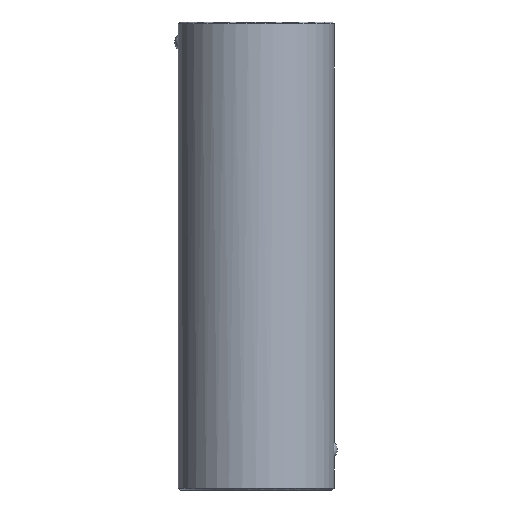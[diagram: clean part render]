
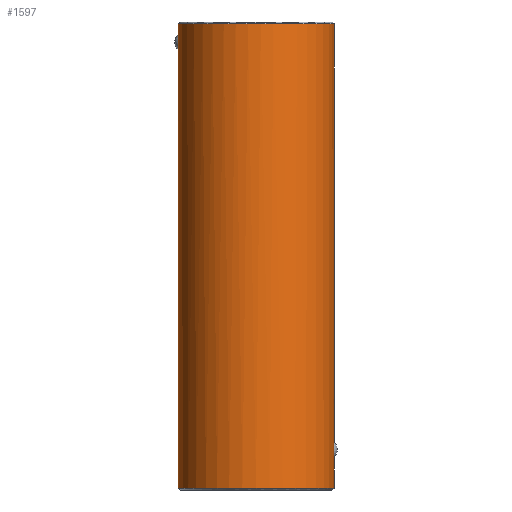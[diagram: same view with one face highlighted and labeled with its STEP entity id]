
A CAD part, front view. The second image highlights one B-rep face of the part: STEP entity #1597.
In plain terms, the highlighted cylindrical face has radius 12 mm (diameter 24 mm), a partial arc.
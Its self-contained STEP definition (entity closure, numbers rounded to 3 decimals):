
#1369=CARTESIAN_POINT('Vertex',(-12.,0.,0.3)) ;
#1376=CARTESIAN_POINT('Vertex',(12.,0.,0.3)) ;
#1379=CARTESIAN_POINT('Axis2P3D Location',(0.,0.,0.3)) ;
#1497=CARTESIAN_POINT('Axis2P3D Location',(0.,0.,72.)) ;
#1502=CARTESIAN_POINT('Line Origine',(12.,0.,72.)) ;
#1506=CARTESIAN_POINT('Vertex',(12.,0.,5.082)) ;
#1510=CARTESIAN_POINT('Control Point',(11.945,-1.143,6.424)) ;
#1511=CARTESIAN_POINT('Control Point',(11.937,-1.227,6.029)) ;
#1512=CARTESIAN_POINT('Control Point',(11.946,-1.127,5.596)) ;
#1513=CARTESIAN_POINT('Control Point',(11.983,-0.81,5.247)) ;
#1514=CARTESIAN_POINT('Control Point',(12.,-0.404,5.082)) ;
#1515=CARTESIAN_POINT('Control Point',(12.,0.,5.082)) ;
#1516=CARTESIAN_POINT('Vertex',(11.945,-1.143,6.424)) ;
#1520=CARTESIAN_POINT('Control Point',(12.,0.,7.318)) ;
#1521=CARTESIAN_POINT('Control Point',(12.,-0.393,7.318)) ;
#1522=CARTESIAN_POINT('Control Point',(11.981,-0.79,7.149)) ;
#1523=CARTESIAN_POINT('Control Point',(11.953,-1.061,6.808)) ;
#1524=CARTESIAN_POINT('Control Point',(11.945,-1.143,6.424)) ;
#1525=CARTESIAN_POINT('Vertex',(12.,0.,7.318)) ;
#1528=CARTESIAN_POINT('Line Origine',(12.,0.,72.)) ;
#1532=CARTESIAN_POINT('Vertex',(12.,0.,71.7)) ;
#1536=CARTESIAN_POINT('Control Point',(-12.,0.,71.7)) ;
#1537=CARTESIAN_POINT('Control Point',(-12.,-1.885,71.7)) ;
#1538=CARTESIAN_POINT('Control Point',(-11.63,-3.77,71.7)) ;
#1539=CARTESIAN_POINT('Control Point',(-10.889,-5.558,71.7)) ;
#1540=CARTESIAN_POINT('Control Point',(-8.747,-8.747,71.7)) ;
#1541=CARTESIAN_POINT('Control Point',(-5.558,-10.889,71.7)) ;
#1542=CARTESIAN_POINT('Control Point',(-3.77,-11.63,71.7)) ;
#1543=CARTESIAN_POINT('Control Point',(0.,-12.37,71.7)) ;
#1544=CARTESIAN_POINT('Control Point',(3.77,-11.63,71.7)) ;
#1545=CARTESIAN_POINT('Control Point',(5.558,-10.889,71.7)) ;
#1546=CARTESIAN_POINT('Control Point',(8.747,-8.747,71.7)) ;
#1547=CARTESIAN_POINT('Control Point',(10.889,-5.558,71.7)) ;
#1548=CARTESIAN_POINT('Control Point',(11.63,-3.77,71.7)) ;
#1549=CARTESIAN_POINT('Control Point',(12.,-1.885,71.7)) ;
#1550=CARTESIAN_POINT('Control Point',(12.,0.,71.7)) ;
#1551=CARTESIAN_POINT('Vertex',(-12.,0.,71.7)) ;
#1554=CARTESIAN_POINT('Line Origine',(-12.,0.,72.)) ;
#1558=CARTESIAN_POINT('Vertex',(-12.,0.,70.018)) ;
#1562=CARTESIAN_POINT('Control Point',(-11.945,-1.143,68.676)) ;
#1563=CARTESIAN_POINT('Control Point',(-11.937,-1.227,69.071)) ;
#1564=CARTESIAN_POINT('Control Point',(-11.946,-1.127,69.504)) ;
#1565=CARTESIAN_POINT('Control Point',(-11.983,-0.81,69.853)) ;
#1566=CARTESIAN_POINT('Control Point',(-12.,-0.404,70.018)) ;
#1567=CARTESIAN_POINT('Control Point',(-12.,0.,70.018)) ;
#1568=CARTESIAN_POINT('Vertex',(-11.945,-1.143,68.676)) ;
#1572=CARTESIAN_POINT('Control Point',(-12.,0.,67.782)) ;
#1573=CARTESIAN_POINT('Control Point',(-12.,-0.393,67.782)) ;
#1574=CARTESIAN_POINT('Control Point',(-11.981,-0.79,67.951)) ;
#1575=CARTESIAN_POINT('Control Point',(-11.953,-1.061,68.292)) ;
#1576=CARTESIAN_POINT('Control Point',(-11.945,-1.143,68.676)) ;
#1577=CARTESIAN_POINT('Vertex',(-12.,0.,67.782)) ;
#1580=CARTESIAN_POINT('Line Origine',(-12.,0.,72.)) ;
#1380=DIRECTION('Axis2P3D Direction',(0.,-0.,1.)) ;
#1498=DIRECTION('Axis2P3D Direction',(0.,0.,-1.)) ;
#1499=DIRECTION('Axis2P3D XDirection',(1.,0.,0.)) ;
#1503=DIRECTION('Vector Direction',(0.,0.,-1.)) ;
#1529=DIRECTION('Vector Direction',(0.,0.,-1.)) ;
#1555=DIRECTION('Vector Direction',(0.,0.,-1.)) ;
#1581=DIRECTION('Vector Direction',(0.,0.,-1.)) ;
#1381=AXIS2_PLACEMENT_3D('Circle Axis2P3D',#1379,#1380,$) ;
#1500=AXIS2_PLACEMENT_3D('Cylinder Axis2P3D',#1497,#1498,#1499) ;
#1586=ORIENTED_EDGE('',*,*,#1508,.T.) ;
#1587=ORIENTED_EDGE('',*,*,#1518,.F.) ;
#1588=ORIENTED_EDGE('',*,*,#1527,.F.) ;
#1589=ORIENTED_EDGE('',*,*,#1534,.T.) ;
#1590=ORIENTED_EDGE('',*,*,#1553,.F.) ;
#1591=ORIENTED_EDGE('',*,*,#1560,.T.) ;
#1592=ORIENTED_EDGE('',*,*,#1570,.F.) ;
#1593=ORIENTED_EDGE('',*,*,#1579,.F.) ;
#1594=ORIENTED_EDGE('',*,*,#1584,.T.) ;
#1595=ORIENTED_EDGE('',*,*,#1383,.T.) ;
#1504=VECTOR('Line Direction',#1503,1.) ;
#1530=VECTOR('Line Direction',#1529,1.) ;
#1556=VECTOR('Line Direction',#1555,1.) ;
#1582=VECTOR('Line Direction',#1581,1.) ;
#1597=ADVANCED_FACE('730-19x72',(#1596),#1501,.T.) ;
#1509=B_SPLINE_CURVE_WITH_KNOTS('',5,(#1510,#1511,#1512,#1513,#1514,#1515),.UNSPECIFIED.,.F.,.U.,(6,6),(0.,2.867),.UNSPECIFIED.) ;
#1519=B_SPLINE_CURVE_WITH_KNOTS('',4,(#1520,#1521,#1522,#1523,#1524),.UNSPECIFIED.,.F.,.U.,(5,5),(0.,2.23),.UNSPECIFIED.) ;
#1535=B_SPLINE_CURVE_WITH_KNOTS('',5,(#1536,#1537,#1538,#1539,#1540,#1541,#1542,#1543,#1544,#1545,#1546,#1547,#1548,#1549,#1550),.UNSPECIFIED.,.F.,.U.,(6,3,3,3,6),(-18.85,-9.425,0.,9.425,18.85),.UNSPECIFIED.) ;
#1561=B_SPLINE_CURVE_WITH_KNOTS('',5,(#1562,#1563,#1564,#1565,#1566,#1567),.UNSPECIFIED.,.F.,.U.,(6,6),(0.,2.867),.UNSPECIFIED.) ;
#1571=B_SPLINE_CURVE_WITH_KNOTS('',4,(#1572,#1573,#1574,#1575,#1576),.UNSPECIFIED.,.F.,.U.,(5,5),(0.,2.23),.UNSPECIFIED.) ;
#1382=CIRCLE('generated circle',#1381,12.) ;
#1501=CYLINDRICAL_SURFACE('generated cylinder',#1500,12.) ;
#1383=EDGE_CURVE('',#1370,#1377,#1382,.T.) ;
#1508=EDGE_CURVE('',#1377,#1507,#1505,.F.) ;
#1518=EDGE_CURVE('',#1517,#1507,#1509,.T.) ;
#1527=EDGE_CURVE('',#1526,#1517,#1519,.T.) ;
#1534=EDGE_CURVE('',#1526,#1533,#1531,.F.) ;
#1553=EDGE_CURVE('',#1552,#1533,#1535,.T.) ;
#1560=EDGE_CURVE('',#1552,#1559,#1557,.T.) ;
#1570=EDGE_CURVE('',#1569,#1559,#1561,.T.) ;
#1579=EDGE_CURVE('',#1578,#1569,#1571,.T.) ;
#1584=EDGE_CURVE('',#1578,#1370,#1583,.T.) ;
#1585=EDGE_LOOP('',(#1586,#1587,#1588,#1589,#1590,#1591,#1592,#1593,#1594,#1595)) ;
#1596=FACE_OUTER_BOUND('',#1585,.T.) ;
#1505=LINE('Line',#1502,#1504) ;
#1531=LINE('Line',#1528,#1530) ;
#1557=LINE('Line',#1554,#1556) ;
#1583=LINE('Line',#1580,#1582) ;
#1370=VERTEX_POINT('',#1369) ;
#1377=VERTEX_POINT('',#1376) ;
#1507=VERTEX_POINT('',#1506) ;
#1517=VERTEX_POINT('',#1516) ;
#1526=VERTEX_POINT('',#1525) ;
#1533=VERTEX_POINT('',#1532) ;
#1552=VERTEX_POINT('',#1551) ;
#1559=VERTEX_POINT('',#1558) ;
#1569=VERTEX_POINT('',#1568) ;
#1578=VERTEX_POINT('',#1577) ;
